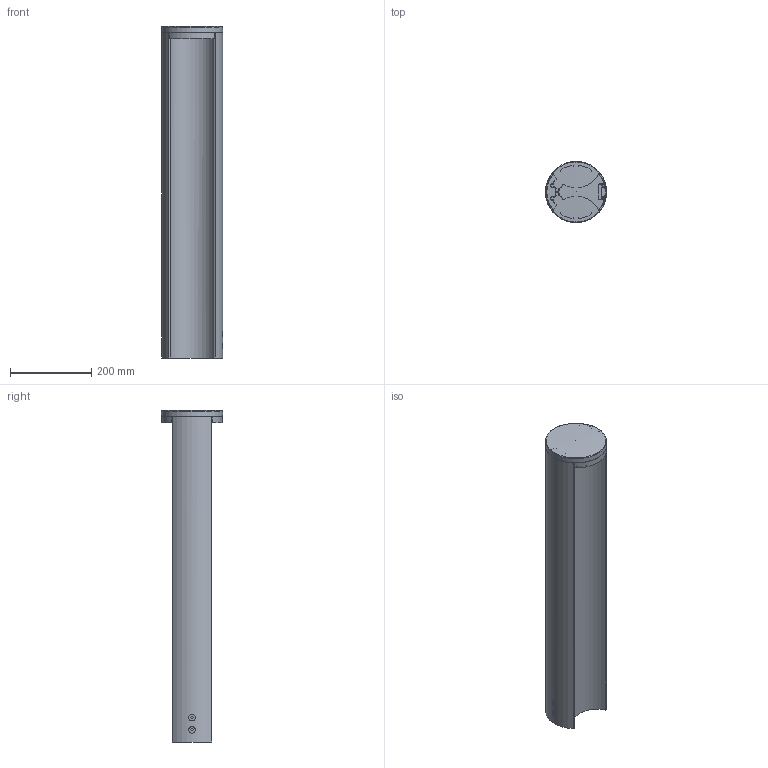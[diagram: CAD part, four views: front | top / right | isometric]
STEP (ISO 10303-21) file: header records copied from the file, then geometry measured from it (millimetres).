
FILE_DESCRIPTION(/* description */ ('Unknown'),/* implementation_level */ '2;1');
FILE_NAME(/* name */ 'RYO DOUBLE MEDIUM',/* time_stamp */ '2023-01-17T10:34:20+01:00',/* author */ ('Unknown'),/* organization */ ('Unknown'),/* preprocessor_version */ 'ST-DEVELOPER v18.1',/* originating_system */ 'Solid Edge',/* authorisation */ 'Unknown');
FILE_SCHEMA (('AUTOMOTIVE_DESIGN {1 0 10303 214 3 1 1}'));
Length unit declared in the file: millimetre
Products named in the file (1): E64735_Semplifica
Bounding box: 150.82 x 150.46 x 816.5 mm (x, y, z)
Volume: 1448236.1 mm3; surface area: 886973.8 mm2
Topology: 2 solids, 2 shells, 1529 faces, 3537 edges, 1952 vertices
Faces by surface type: cylinder 541, torus 329, plane 281, cone 132, sphere 130, bspline 116
Full cylindrical faces by diameter (mm): 2.459 x8, 2.5 x7, 3 x8, 3.5 x8, 4.917 x4, 7 x6, 8 x4, 11.1 x4, 16 x3, 17 x2
Entity records: 52980 total; most frequent: CARTESIAN_POINT 9054, DIRECTION 7749, ORIENTED_EDGE 6564, AXIS2_PLACEMENT_3D 3309, EDGE_CURVE 3282, VERTEX_POINT 1913, CIRCLE 1833, EDGE_LOOP 1717
